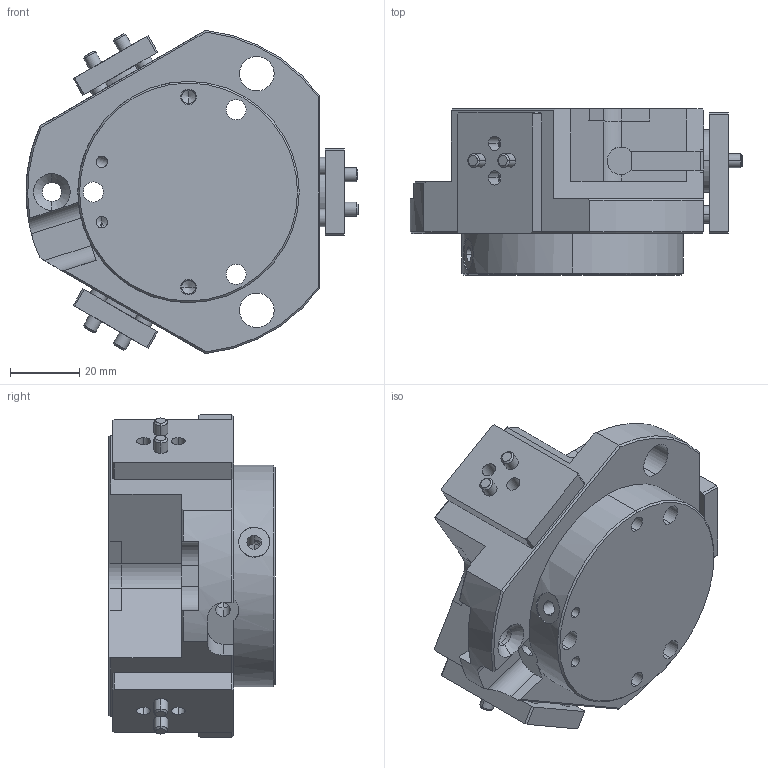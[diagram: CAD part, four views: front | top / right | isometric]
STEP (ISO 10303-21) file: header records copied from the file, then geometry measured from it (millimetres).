
FILE_DESCRIPTION (( 'STEP AP203' ), '1' );
FILE_NAME ('SRP64-原始檔-組合-W104.04.14.STEP', '2017-04-14T09:28:32', ( 'DanyaoCAD' ), ( '' ), 'SwSTEP 2.0', 'SolidWorks 2016', '' );
FILE_SCHEMA (( 'CONFIG_CONTROL_DESIGN' ));
Length unit declared in the file: millimetre
Products named in the file (3): Griffa; SRP64-原始檔-組合-W104.04.14; Corpo
Assembly tree (4 placements, depth 2):
  SRP64-原始檔-組合-W104.04.14
    Corpo
    Griffa  x3
Bounding box: 95.99 x 48 x 93.48 mm (x, y, z)
Volume: 208910.5 mm3; surface area: 49849.2 mm2
Topology: 4 solids, 4 shells, 1131 faces, 3054 edges, 2014 vertices
Faces by surface type: bspline 640, plane 310, cylinder 137, cone 44
Entity records: 49960 total; most frequent: CARTESIAN_POINT 27231, ORIENTED_EDGE 5744, EDGE_CURVE 2872, DIRECTION 2632, VERTEX_POINT 1902, LINE 1330, VECTOR 1330, B_SPLINE_CURVE_WITH_KNOTS 1306
